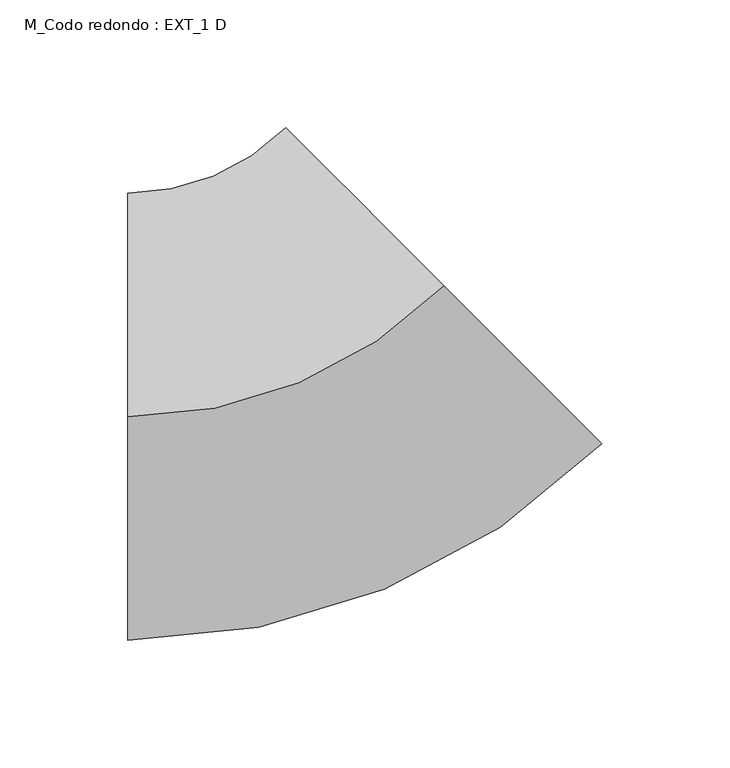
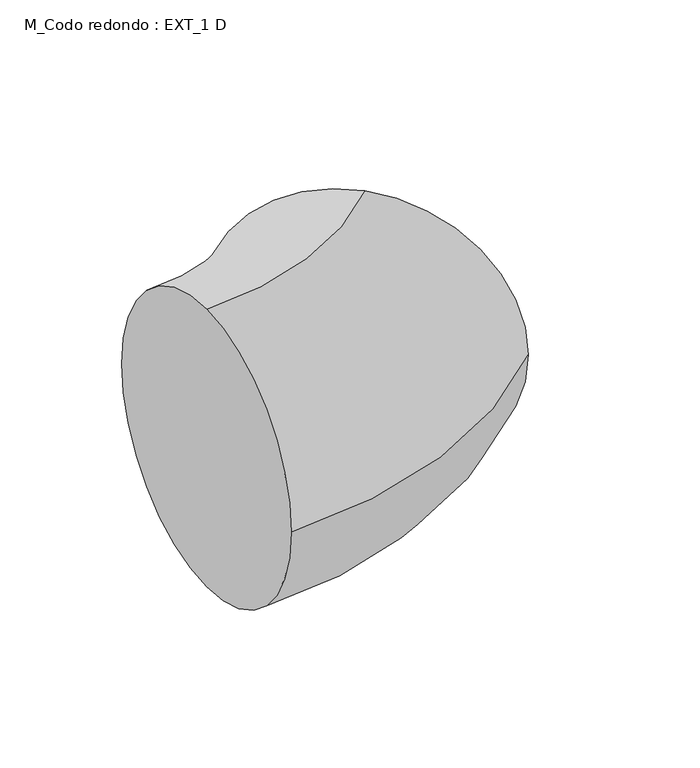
"""IFC4 building model written with IfcOpenShell, lengths in millimetres: duct fitting geometry, M_Codo redondo : EXT_1 D."""

from ifc_helpers import new_model, si_unit, point, frame, origin, place, context, project, spatial, circle_curve, ellipse_curve, trimmed, source, transform, mapped, element, save
from ifc_brep_helpers import plane_surface, revolved_surface, advanced_brep


def m_codo_redondo_ext_1_d_7c243904(model_context):
    return source(origin(), model_context, "Body", "AdvancedBrep", [
        advanced_brep(
        [(-72.4873734, 0.0, 87.5), (-72.4873734, 87.5, 0.0), (-72.4873734, 0.0, -87.5), (-72.4873734, -87.5, 0.0), (51.2563133, 51.2563133, 87.5), (113.1281566, -10.6155301, 0.0), (51.2563133, 51.2563133, -87.5), (-10.6155301, 113.1281566, 0.0)],
        [
            (0, 1, circle_curve(frame((-72.4873734, 0.0, 0.0), z_axis=(-1.0, 0.0, 0.0), x_axis=(0.0, 1.0, 0.0)), 87.5)),
            (1, 2, circle_curve(frame((-72.4873734, 0.0, 0.0), z_axis=(-1.0, 0.0, 0.0), x_axis=(0.0, 1.0, 0.0)), 87.5)),
            (2, 3, circle_curve(frame((-72.4873734, 0.0, 0.0), z_axis=(-1.0, 0.0, 0.0), x_axis=(0.0, 1.0, 0.0)), 87.5)),
            (3, 0, circle_curve(frame((-72.4873734, 0.0, 0.0), z_axis=(-1.0, 0.0, 0.0), x_axis=(0.0, 1.0, 0.0)), 87.5)),
            (4, 5, circle_curve(frame((51.2563133, 51.2563133, 0.0), z_axis=(0.7071067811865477, 0.7071067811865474, 0.0), x_axis=(-0.7071067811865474, 0.7071067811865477, 0.0)), 87.5)),
            (5, 6, circle_curve(frame((51.2563133, 51.2563133, 0.0), z_axis=(0.7071067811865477, 0.7071067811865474, 0.0), x_axis=(-0.7071067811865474, 0.7071067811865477, 0.0)), 87.5)),
            (6, 7, circle_curve(frame((51.2563133, 51.2563133, 0.0), z_axis=(0.7071067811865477, 0.7071067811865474, 0.0), x_axis=(-0.7071067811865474, 0.7071067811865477, 0.0)), 87.5)),
            (7, 4, circle_curve(frame((51.2563133, 51.2563133, 0.0), z_axis=(0.7071067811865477, 0.7071067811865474, 0.0), x_axis=(-0.7071067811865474, 0.7071067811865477, 0.0)), 87.5)),
            (7, 1, circle_curve(frame((-72.4873734, 175.0, 0.0), z_axis=(0.0, 0.0, -1.0), x_axis=(0.0, -1.0, 0.0)), 87.5)),
            (0, 4, circle_curve(frame((-72.4873734, 175.0, 87.5), z_axis=(0.0, 0.0, 1.0), x_axis=(0.0, -1.0, 0.0)), 175.0)),
            (6, 2, circle_curve(frame((-72.4873734, 175.0, -87.5), z_axis=(0.0, 0.0, -1.0), x_axis=(0.0, -1.0, 0.0)), 175.0)),
            (5, 3, circle_curve(frame((-72.4873734, 175.0, 0.0), z_axis=(0.0, 0.0, -1.0), x_axis=(0.0, -1.0, 0.0)), 262.5)),
        ],
        [
            plane_surface(frame((-72.4873734, 0.0, 0.0), z_axis=(-1.0, 0.0, 0.0), x_axis=(0.0, 0.0, 1.0))),
            plane_surface(frame((51.2563133, 51.2563133, 0.0), z_axis=(0.7071067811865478, 0.7071067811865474, 0.0), x_axis=(0.0, 0.0, 1.0))),
            revolved_surface(trimmed(ellipse_curve(frame((-72.4873734, 0.0, 0.0), z_axis=(-1.0, 0.0, 0.0), x_axis=(0.0, 1.0, 0.0)), 87.5, 87.5), [point((-72.4873734, 0.0, 87.5))], [point((-72.4873734, 87.5, 0.0))], True, "CARTESIAN"), (-72.4873734, 175.0, 0.0), (0.0, 0.0, 1.0)),
            revolved_surface(trimmed(ellipse_curve(frame((-72.4873734, 0.0, 0.0), z_axis=(-1.0, 0.0, 0.0), x_axis=(0.0, 1.0, 0.0)), 87.5, 87.5), [point((-72.4873734, 87.5, 0.0))], [point((-72.4873734, 0.0, -87.5))], True, "CARTESIAN"), (-72.4873734, 175.0, 0.0), (0.0, 0.0, 1.0)),
            revolved_surface(trimmed(ellipse_curve(frame((-72.4873734, 0.0, 0.0), z_axis=(-1.0, 0.0, 0.0), x_axis=(0.0, 1.0, 0.0)), 87.5, 87.5), [point((-72.4873734, 0.0, -87.5))], [point((-72.4873734, -87.5, 0.0))], True, "CARTESIAN"), (-72.4873734, 175.0, 0.0), (0.0, 0.0, 1.0)),
            revolved_surface(trimmed(ellipse_curve(frame((-72.4873734, 0.0, 0.0), z_axis=(-1.0, 0.0, 0.0), x_axis=(0.0, 1.0, 0.0)), 87.5, 87.5), [point((-72.4873734, -87.5, 0.0))], [point((-72.4873734, 0.0, 87.5))], True, "CARTESIAN"), (-72.4873734, 175.0, 0.0), (0.0, 0.0, 1.0)),
        ],
        [
            (0, [[1, 2, 3, 4]]),
            (1, [[5, 6, 7, 8]]),
            (2, [[9, -1, 10, -8]]),
            (3, [[11, -2, -9, -7]]),
            (4, [[12, -3, -11, -6]]),
            (5, [[-10, -4, -12, -5]]),
        ],
    ),
    ])


if __name__ == "__main__":
    model = new_model("IFC4")
    model_context = context("Model", 3, world=origin())
    ifc_project = project(units=[si_unit("LENGTHUNIT", "METRE", prefix="MILLI")], contexts=[model_context])
    site = spatial("IfcSite", under=ifc_project)
    building = spatial("IfcBuilding", under=site)
    placement = place(None, origin())
    m_codo_redondo_ext_1_d_shape = m_codo_redondo_ext_1_d_7c243904(model_context)
    element("IfcDuctFitting", 1, ObjectType="M_Codo redondo : EXT_1 D", at=placement, inside=building, context=model_context, shape_type="MappedRepresentation", body=[
        mapped(m_codo_redondo_ext_1_d_shape, transform((0.0, 0.0, 0.0), x_axis=(1.0, 0.0, 0.0), y_axis=(0.0, 1.0, 0.0), z_axis=(0.0, 0.0, 1.0))),
    ])
    save(model, "model.ifc")
